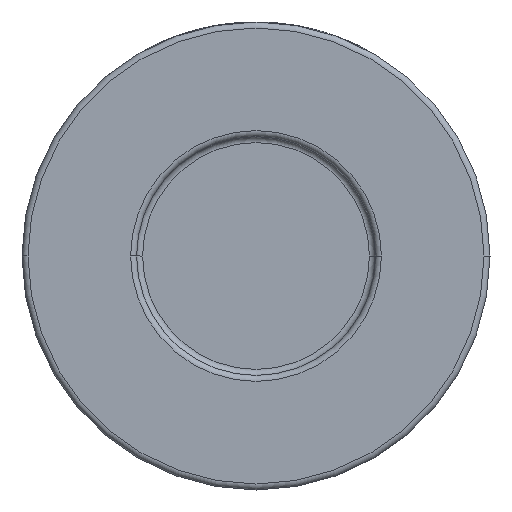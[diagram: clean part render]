
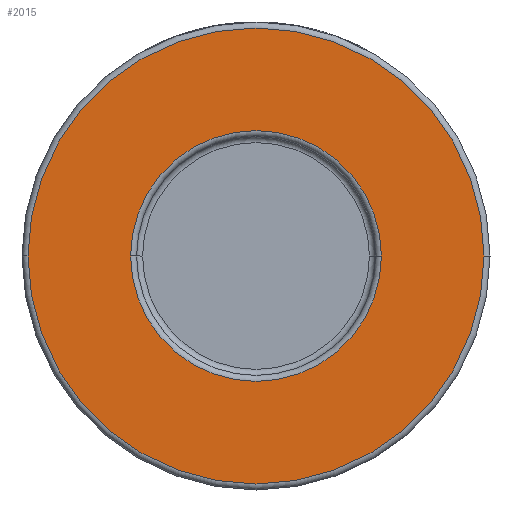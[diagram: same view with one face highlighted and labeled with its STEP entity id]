
A CAD part, front view. The second image highlights one B-rep face of the part: STEP entity #2015.
In plain terms, the highlighted planar face has unit normal (0, -1, 0).
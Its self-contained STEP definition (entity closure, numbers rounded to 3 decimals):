
#227 = VERTEX_POINT ( 'NONE', #1143 ) ;
#471 = VERTEX_POINT ( 'NONE', #3744 ) ;
#481 = DIRECTION ( 'NONE',  ( 0., -1., 0. ) ) ;
#499 = AXIS2_PLACEMENT_3D ( 'NONE', #3639, #481, #4000 ) ;
#674 = ORIENTED_EDGE ( 'NONE', *, *, #4160, .T. ) ;
#876 = CARTESIAN_POINT ( 'NONE',  ( 0., -26., 0. ) ) ;
#991 = AXIS2_PLACEMENT_3D ( 'NONE', #4084, #4230, #4179 ) ;
#1008 = CARTESIAN_POINT ( 'NONE',  ( 0., -26., 0. ) ) ;
#1117 = CARTESIAN_POINT ( 'NONE',  ( 20.9, -26., 0. ) ) ;
#1143 = CARTESIAN_POINT ( 'NONE',  ( 38., -26., 0. ) ) ;
#1358 = VERTEX_POINT ( 'NONE', #3817 ) ;
#1365 = CIRCLE ( 'NONE', #991, 38. ) ;
#1404 = CIRCLE ( 'NONE', #2515, 20.9 ) ;
#1527 = CARTESIAN_POINT ( 'NONE',  ( 0., -26., 0. ) ) ;
#1550 = DIRECTION ( 'NONE',  ( 0., -1., 0. ) ) ;
#2015 = ADVANCED_FACE ( 'NONE', ( #2925, #4329 ), #4354, .T. ) ;
#2059 = AXIS2_PLACEMENT_3D ( 'NONE', #1527, #1550, #3989 ) ;
#2167 = EDGE_CURVE ( 'NONE', #1358, #227, #1365, .T. ) ;
#2392 = EDGE_LOOP ( 'NONE', ( #2940, #2936 ) ) ;
#2515 = AXIS2_PLACEMENT_3D ( 'NONE', #1008, #3801, #4165 ) ;
#2807 = VERTEX_POINT ( 'NONE', #1117 ) ;
#2925 = FACE_BOUND ( 'NONE', #2392, .T. ) ;
#2936 = ORIENTED_EDGE ( 'NONE', *, *, #3257, .T. ) ;
#2940 = ORIENTED_EDGE ( 'NONE', *, *, #4545, .T. ) ;
#3257 = EDGE_CURVE ( 'NONE', #471, #2807, #4106, .T. ) ;
#3281 = DIRECTION ( 'NONE',  ( 1., 0., 0. ) ) ;
#3639 = CARTESIAN_POINT ( 'NONE',  ( 39., -26., 0. ) ) ;
#3656 = EDGE_LOOP ( 'NONE', ( #674, #3673 ) ) ;
#3673 = ORIENTED_EDGE ( 'NONE', *, *, #2167, .T. ) ;
#3689 = CIRCLE ( 'NONE', #2059, 38. ) ;
#3744 = CARTESIAN_POINT ( 'NONE',  ( -20.9, -26., 0. ) ) ;
#3801 = DIRECTION ( 'NONE',  ( 0., 1., 0. ) ) ;
#3817 = CARTESIAN_POINT ( 'NONE',  ( -38., -26., 0. ) ) ;
#3989 = DIRECTION ( 'NONE',  ( 1., 0., 0. ) ) ;
#4000 = DIRECTION ( 'NONE',  ( 1., 0., 0. ) ) ;
#4009 = DIRECTION ( 'NONE',  ( 0., 1., 0. ) ) ;
#4084 = CARTESIAN_POINT ( 'NONE',  ( 0., -26., 0. ) ) ;
#4106 = CIRCLE ( 'NONE', #4486, 20.9 ) ;
#4160 = EDGE_CURVE ( 'NONE', #227, #1358, #3689, .T. ) ;
#4165 = DIRECTION ( 'NONE',  ( 1., 0., 0. ) ) ;
#4179 = DIRECTION ( 'NONE',  ( 1., 0., 0. ) ) ;
#4230 = DIRECTION ( 'NONE',  ( 0., -1., 0. ) ) ;
#4329 = FACE_OUTER_BOUND ( 'NONE', #3656, .T. ) ;
#4354 = PLANE ( 'NONE',  #499 ) ;
#4486 = AXIS2_PLACEMENT_3D ( 'NONE', #876, #4009, #3281 ) ;
#4545 = EDGE_CURVE ( 'NONE', #2807, #471, #1404, .T. ) ;
